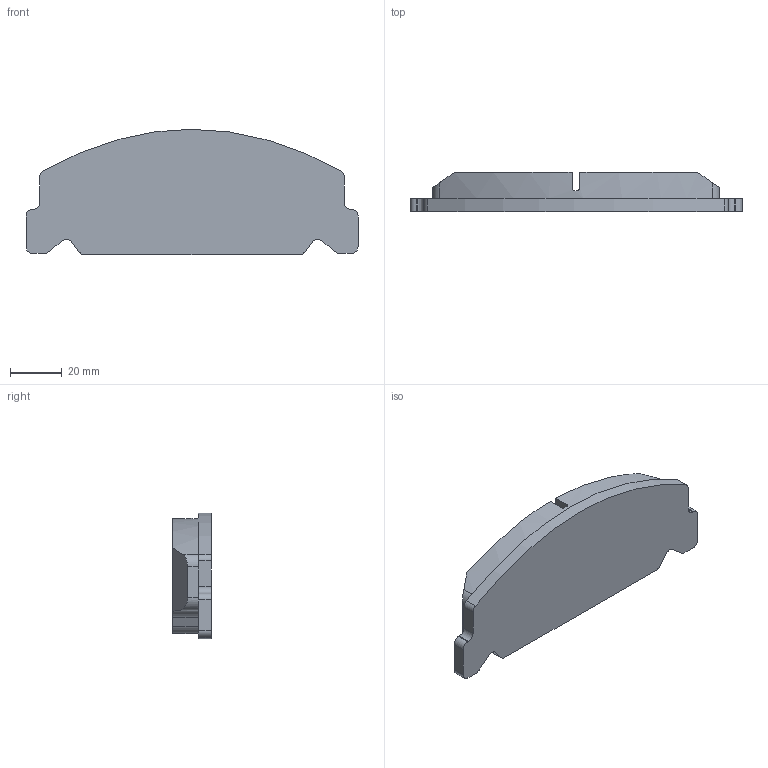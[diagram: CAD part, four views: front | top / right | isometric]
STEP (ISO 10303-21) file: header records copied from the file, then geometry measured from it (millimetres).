
FILE_DESCRIPTION (( 'STEP AP214' ), '1' );
FILE_NAME ('CivicFrontBrakePad.STEP', '2015-04-12T00:59:03', ( '' ), ( '' ), 'SwSTEP 2.0', 'SolidWorks 2013', '' );
FILE_SCHEMA (( 'AUTOMOTIVE_DESIGN' ));
Length unit declared in the file: millimetre
Products named in the file (1): CivicFrontBrakePad
Bounding box: 127.7 x 15 x 48.25 mm (x, y, z)
Volume: 64471.5 mm3; surface area: 14776.5 mm2
Topology: 1 solids, 1 shells, 55 faces, 156 edges, 104 vertices
Faces by surface type: plane 29, cylinder 24, bspline 2
Entity records: 1860 total; most frequent: CARTESIAN_POINT 394, ORIENTED_EDGE 312, DIRECTION 290, EDGE_CURVE 156, VERTEX_POINT 104, VECTOR 98, LINE 98, AXIS2_PLACEMENT_3D 96
